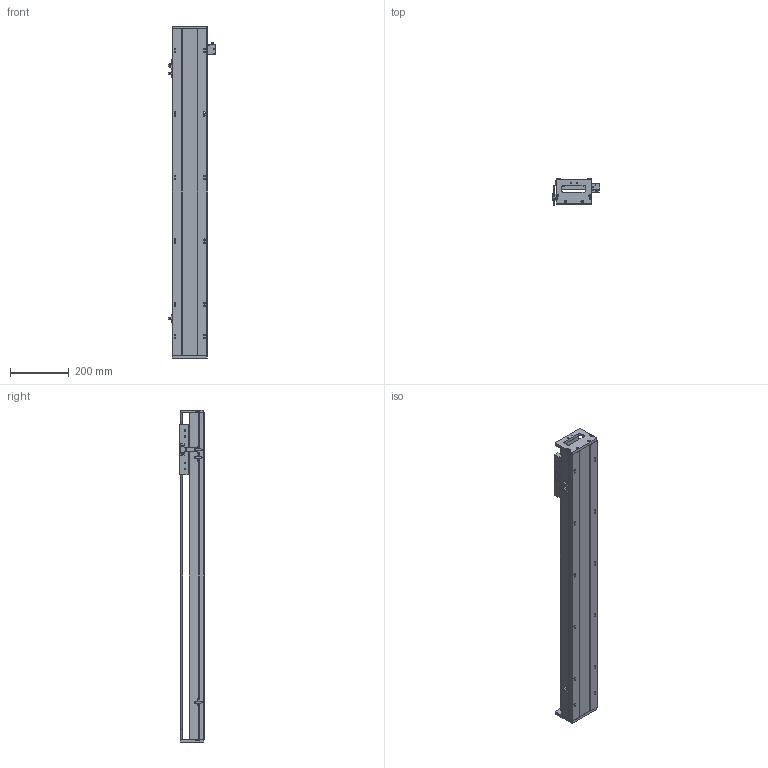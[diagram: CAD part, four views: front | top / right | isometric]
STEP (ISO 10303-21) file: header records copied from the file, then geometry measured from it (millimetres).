
FILE_DESCRIPTION (( 'STEP AP203' ), '1' );
FILE_NAME ('SKR12S-C1-S858（简）.STEP', '2022-09-26T02:46:01', ( '' ), ( '' ), 'SwSTEP 2.0', 'SolidWorks 2018', '' );
FILE_SCHEMA (( 'CONFIG_CONTROL_DESIGN' ));
Length unit declared in the file: millimetre
Products named in the file (8): 覜茼え; SIKO棠掑; 棠掑假蚾輸; EE-SX672; SKR12滑台-170L（简）; SKR12耜啣; SKR12S-C1-S858（简）; SKR12菁釱-C1-S858(潠)
Assembly tree (10 placements, depth 2):
  SKR12S-C1-S858（简）
    SKR12菁釱-C1-S858(潠)
    SKR12滑台-170L（简）
    SKR12耜啣  x2
    棠掑假蚾輸
    SIKO棠掑
    覜茼え
    EE-SX672  x3
Bounding box: 162.7 x 87.3 x 1128 mm (x, y, z)
Volume: 5084088.2 mm3; surface area: 829494.9 mm2
Topology: 11 solids, 11 shells, 986 faces, 2621 edges, 1657 vertices
Faces by surface type: cylinder 451, plane 401, cone 134
Entity records: 26813 total; most frequent: CARTESIAN_POINT 5359, DIRECTION 4439, ORIENTED_EDGE 4206, EDGE_CURVE 2103, AXIS2_PLACEMENT_3D 1641, VERTEX_POINT 1361, VECTOR 1157, LINE 1157
